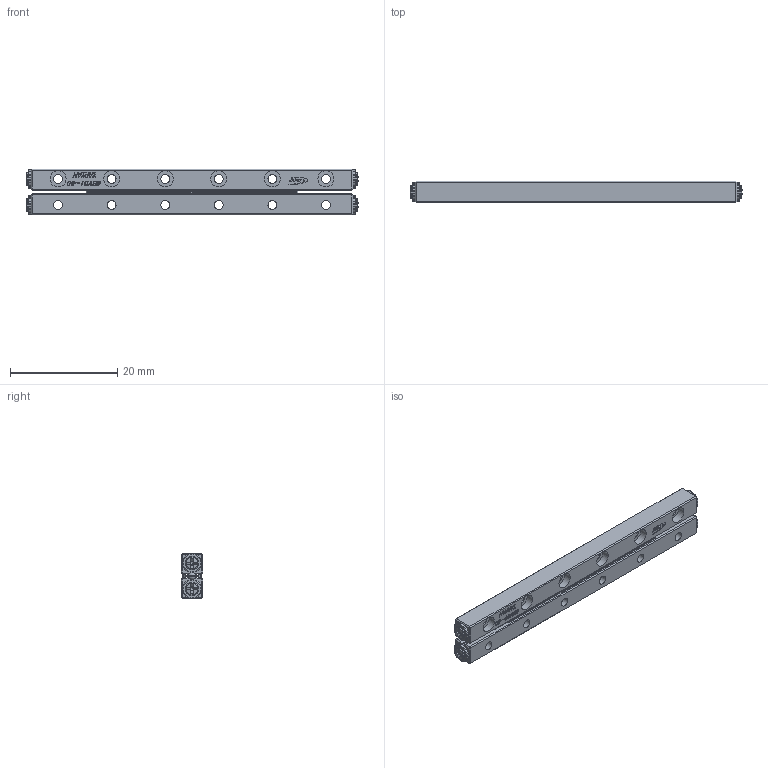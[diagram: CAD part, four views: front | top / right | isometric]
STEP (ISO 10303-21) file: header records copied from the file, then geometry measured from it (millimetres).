
FILE_DESCRIPTION (( 'STEP AP203' ), '1' );
FILE_NAME ('GBV01-60.STEP', '2023-08-04T05:37:32', ( '' ), ( '' ), 'SwSTEP 2.0', 'SolidWorks 2019', '' );
FILE_SCHEMA (( 'CONFIG_CONTROL_DESIGN' ));
Length unit declared in the file: millimetre
Products named in the file (3): GBV01-60-模糊化保持器組; GBV01-60; GBV01-60-模糊化軌道
Assembly tree (3 placements, depth 2):
  GBV01-60
    GBV01-60-模糊化軌道  x2
    GBV01-60-模糊化保持器組
Bounding box: 61.96 x 4 x 8.5 mm (x, y, z)
Volume: 1643.4 mm3; surface area: 2737.5 mm2
Topology: 3 solids, 7 shells, 1160 faces, 3058 edges, 2002 vertices
Faces by surface type: plane 800, bspline 238, cylinder 40, cone 40, sphere 30, torus 12
Full cylindrical faces by diameter (mm): 1.32 x4, 1.65 x12, 2.5 x4, 3 x12, 3.5 x4
Entity records: 20097 total; most frequent: CARTESIAN_POINT 6029, ORIENTED_EDGE 3032, DIRECTION 2354, EDGE_CURVE 1516, LINE 1104, VECTOR 1104, VERTEX_POINT 1012, EDGE_LOOP 696
